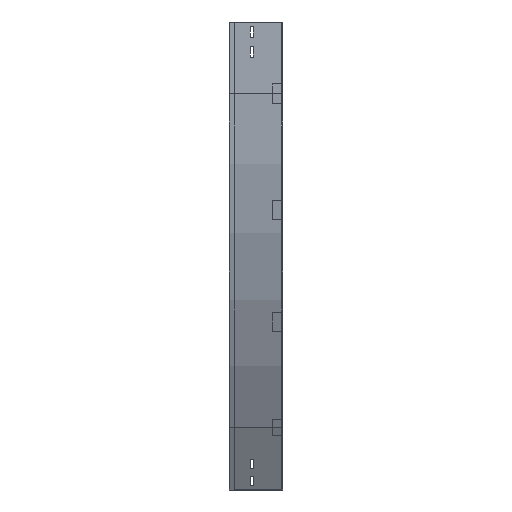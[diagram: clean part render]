
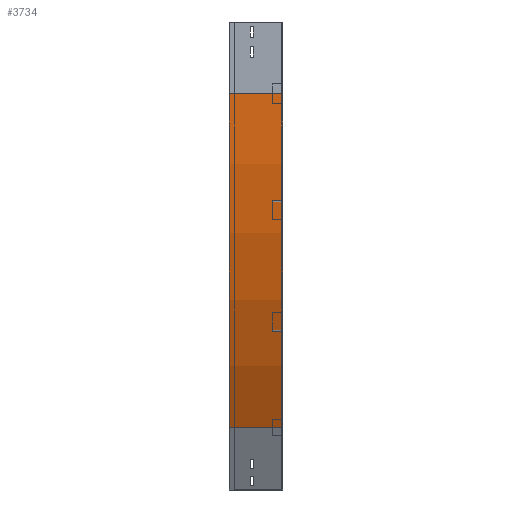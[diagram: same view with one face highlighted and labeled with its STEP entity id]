
A CAD part, left-side view. The second image highlights one B-rep face of the part: STEP entity #3734.
In plain terms, the highlighted cylindrical face has radius 1400 mm (diameter 2800 mm), a partial arc.
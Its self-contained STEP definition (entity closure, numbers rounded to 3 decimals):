
#4 = EDGE_CURVE ( 'NONE', #231, #3481, #644, .T. ) ;
#218 = ORIENTED_EDGE ( 'NONE', *, *, #3542, .F. ) ;
#231 = VERTEX_POINT ( 'NONE', #3594 ) ;
#494 = DIRECTION ( 'NONE',  ( 0., 0., -1. ) ) ;
#644 = LINE ( 'NONE', #2161, #1056 ) ;
#660 = DIRECTION ( 'NONE',  ( 0., -1., 0. ) ) ;
#742 = VERTEX_POINT ( 'NONE', #3287 ) ;
#885 = CIRCLE ( 'NONE', #3769, 1400. ) ;
#891 = CARTESIAN_POINT ( 'NONE',  ( 1400., 0., -150. ) ) ;
#950 = LINE ( 'NONE', #2166, #3623 ) ;
#977 = EDGE_CURVE ( 'NONE', #231, #3663, #885, .T. ) ;
#1020 = DIRECTION ( 'NONE',  ( -1., 0., 0. ) ) ;
#1056 = VECTOR ( 'NONE', #660, 1000. ) ;
#1192 = ORIENTED_EDGE ( 'NONE', *, *, #3583, .T. ) ;
#1248 = DIRECTION ( 'NONE',  ( -1., 0., 0. ) ) ;
#1344 = FACE_OUTER_BOUND ( 'NONE', #3752, .T. ) ;
#1671 = CARTESIAN_POINT ( 'NONE',  ( 1400., 0., -150. ) ) ;
#1813 = AXIS2_PLACEMENT_3D ( 'NONE', #891, #3644, #1248 ) ;
#1888 = DIRECTION ( 'NONE',  ( 0., -1., 0. ) ) ;
#2161 = CARTESIAN_POINT ( 'NONE',  ( 0., 0., -150. ) ) ;
#2166 = CARTESIAN_POINT ( 'NONE',  ( 187.564, 0., -850. ) ) ;
#2376 = AXIS2_PLACEMENT_3D ( 'NONE', #1671, #3183, #494 ) ;
#2688 = CIRCLE ( 'NONE', #1813, 1400. ) ;
#2811 = CARTESIAN_POINT ( 'NONE',  ( 1400., 112.5, -150. ) ) ;
#3039 = CARTESIAN_POINT ( 'NONE',  ( 0., 0., -150. ) ) ;
#3132 = ORIENTED_EDGE ( 'NONE', *, *, #977, .T. ) ;
#3163 = CYLINDRICAL_SURFACE ( 'NONE', #2376, 1400. ) ;
#3183 = DIRECTION ( 'NONE',  ( 0., -1., 0. ) ) ;
#3255 = ORIENTED_EDGE ( 'NONE', *, *, #4, .F. ) ;
#3287 = CARTESIAN_POINT ( 'NONE',  ( 187.564, 0., -850. ) ) ;
#3471 = CARTESIAN_POINT ( 'NONE',  ( 187.564, 112.5, -850. ) ) ;
#3481 = VERTEX_POINT ( 'NONE', #3039 ) ;
#3542 = EDGE_CURVE ( 'NONE', #3481, #742, #2688, .T. ) ;
#3583 = EDGE_CURVE ( 'NONE', #3663, #742, #950, .T. ) ;
#3594 = CARTESIAN_POINT ( 'NONE',  ( 0., 112.5, -150. ) ) ;
#3623 = VECTOR ( 'NONE', #1888, 1000. ) ;
#3644 = DIRECTION ( 'NONE',  ( 0., -1., 0. ) ) ;
#3663 = VERTEX_POINT ( 'NONE', #3471 ) ;
#3704 = DIRECTION ( 'NONE',  ( 0., -1., 0. ) ) ;
#3734 = ADVANCED_FACE ( 'NONE', ( #1344 ), #3163, .T. ) ;
#3752 = EDGE_LOOP ( 'NONE', ( #218, #3255, #3132, #1192 ) ) ;
#3769 = AXIS2_PLACEMENT_3D ( 'NONE', #2811, #3704, #1020 ) ;
